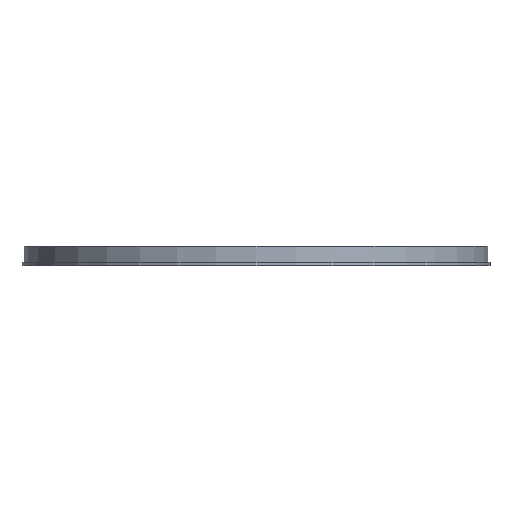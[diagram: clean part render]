
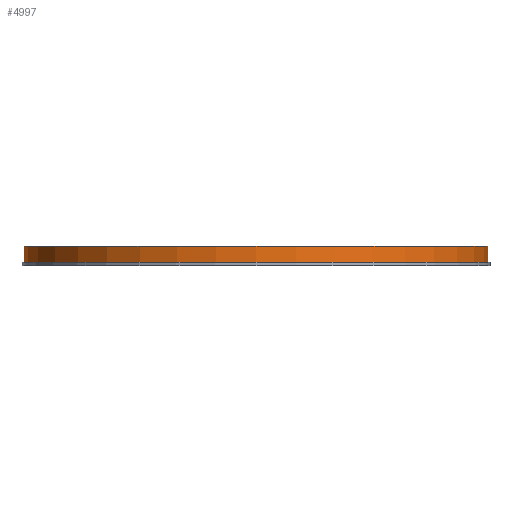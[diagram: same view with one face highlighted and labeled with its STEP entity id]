
A CAD part, front view. The second image highlights one B-rep face of the part: STEP entity #4997.
In plain terms, the highlighted cylindrical face has radius 57.5 mm (diameter 115 mm), a full revolution.
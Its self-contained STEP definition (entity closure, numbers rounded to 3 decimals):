
#66 = PLANE('',#67);
#67 = AXIS2_PLACEMENT_3D('',#68,#69,#70);
#68 = CARTESIAN_POINT('',(0.,0.,79.8));
#69 = DIRECTION('',(0.,0.,1.));
#70 = DIRECTION('',(1.,0.,-0.));
#1899 = EDGE_CURVE('',#1900,#1900,#1902,.T.);
#1900 = VERTEX_POINT('',#1901);
#1901 = CARTESIAN_POINT('',(57.5,0.,79.8));
#1902 = SURFACE_CURVE('',#1903,(#1908,#1919),.PCURVE_S1.);
#1903 = CIRCLE('',#1904,57.5);
#1904 = AXIS2_PLACEMENT_3D('',#1905,#1906,#1907);
#1905 = CARTESIAN_POINT('',(0.,0.,79.8));
#1906 = DIRECTION('',(0.,0.,-1.));
#1907 = DIRECTION('',(1.,0.,0.));
#1908 = PCURVE('',#66,#1909);
#1909 = DEFINITIONAL_REPRESENTATION('',(#1910),#1918);
#1910 = ( BOUNDED_CURVE() B_SPLINE_CURVE(2,(#1911,#1912,#1913,#1914,
#1915,#1916,#1917),.UNSPECIFIED.,.T.,.F.) B_SPLINE_CURVE_WITH_KNOTS((1,2
    ,2,2,2,1),(-2.094,0.,2.094,4.189,
6.283,8.378),.UNSPECIFIED.) CURVE() 
GEOMETRIC_REPRESENTATION_ITEM() RATIONAL_B_SPLINE_CURVE((1.,0.5,1.,0.5,
1.,0.5,1.)) REPRESENTATION_ITEM('') );
#1911 = CARTESIAN_POINT('',(57.5,0.));
#1912 = CARTESIAN_POINT('',(57.5,-99.593));
#1913 = CARTESIAN_POINT('',(-28.75,-49.796));
#1914 = CARTESIAN_POINT('',(-115.,0.));
#1915 = CARTESIAN_POINT('',(-28.75,49.796));
#1916 = CARTESIAN_POINT('',(57.5,99.593));
#1917 = CARTESIAN_POINT('',(57.5,0.));
#1918 = ( GEOMETRIC_REPRESENTATION_CONTEXT(2) 
PARAMETRIC_REPRESENTATION_CONTEXT() REPRESENTATION_CONTEXT('2D SPACE',''
  ) );
#1919 = PCURVE('',#1920,#1925);
#1920 = CYLINDRICAL_SURFACE('',#1921,57.5);
#1921 = AXIS2_PLACEMENT_3D('',#1922,#1923,#1924);
#1922 = CARTESIAN_POINT('',(0.,0.,79.4));
#1923 = DIRECTION('',(-0.,-0.,-1.));
#1924 = DIRECTION('',(1.,0.,0.));
#1925 = DEFINITIONAL_REPRESENTATION('',(#1926),#1930);
#1926 = LINE('',#1927,#1928);
#1927 = CARTESIAN_POINT('',(-6.283,-0.4));
#1928 = VECTOR('',#1929,1.);
#1929 = DIRECTION('',(1.,-0.));
#1930 = ( GEOMETRIC_REPRESENTATION_CONTEXT(2) 
PARAMETRIC_REPRESENTATION_CONTEXT() REPRESENTATION_CONTEXT('2D SPACE',''
  ) );
#4997 = ADVANCED_FACE('',(#4998),#1920,.T.);
#4998 = FACE_BOUND('',#4999,.F.);
#4999 = EDGE_LOOP('',(#5000,#5001,#5024,#5051));
#5000 = ORIENTED_EDGE('',*,*,#1899,.T.);
#5001 = ORIENTED_EDGE('',*,*,#5002,.T.);
#5002 = EDGE_CURVE('',#1900,#5003,#5005,.T.);
#5003 = VERTEX_POINT('',#5004);
#5004 = CARTESIAN_POINT('',(57.5,0.,83.8));
#5005 = SEAM_CURVE('',#5006,(#5010,#5017),.PCURVE_S1.);
#5006 = LINE('',#5007,#5008);
#5007 = CARTESIAN_POINT('',(57.5,0.,79.4));
#5008 = VECTOR('',#5009,1.);
#5009 = DIRECTION('',(0.,0.,1.));
#5010 = PCURVE('',#1920,#5011);
#5011 = DEFINITIONAL_REPRESENTATION('',(#5012),#5016);
#5012 = LINE('',#5013,#5014);
#5013 = CARTESIAN_POINT('',(-6.283,0.));
#5014 = VECTOR('',#5015,1.);
#5015 = DIRECTION('',(-0.,-1.));
#5016 = ( GEOMETRIC_REPRESENTATION_CONTEXT(2) 
PARAMETRIC_REPRESENTATION_CONTEXT() REPRESENTATION_CONTEXT('2D SPACE',''
  ) );
#5017 = PCURVE('',#1920,#5018);
#5018 = DEFINITIONAL_REPRESENTATION('',(#5019),#5023);
#5019 = LINE('',#5020,#5021);
#5020 = CARTESIAN_POINT('',(-0.,0.));
#5021 = VECTOR('',#5022,1.);
#5022 = DIRECTION('',(-0.,-1.));
#5023 = ( GEOMETRIC_REPRESENTATION_CONTEXT(2) 
PARAMETRIC_REPRESENTATION_CONTEXT() REPRESENTATION_CONTEXT('2D SPACE',''
  ) );
#5024 = ORIENTED_EDGE('',*,*,#5025,.T.);
#5025 = EDGE_CURVE('',#5003,#5003,#5026,.T.);
#5026 = SURFACE_CURVE('',#5027,(#5032,#5039),.PCURVE_S1.);
#5027 = CIRCLE('',#5028,57.5);
#5028 = AXIS2_PLACEMENT_3D('',#5029,#5030,#5031);
#5029 = CARTESIAN_POINT('',(0.,0.,83.8));
#5030 = DIRECTION('',(0.,0.,1.));
#5031 = DIRECTION('',(1.,0.,0.));
#5032 = PCURVE('',#1920,#5033);
#5033 = DEFINITIONAL_REPRESENTATION('',(#5034),#5038);
#5034 = LINE('',#5035,#5036);
#5035 = CARTESIAN_POINT('',(-0.,-4.4));
#5036 = VECTOR('',#5037,1.);
#5037 = DIRECTION('',(-1.,0.));
#5038 = ( GEOMETRIC_REPRESENTATION_CONTEXT(2) 
PARAMETRIC_REPRESENTATION_CONTEXT() REPRESENTATION_CONTEXT('2D SPACE',''
  ) );
#5039 = PCURVE('',#5040,#5045);
#5040 = PLANE('',#5041);
#5041 = AXIS2_PLACEMENT_3D('',#5042,#5043,#5044);
#5042 = CARTESIAN_POINT('',(0.,0.,83.8)
  );
#5043 = DIRECTION('',(0.,0.,1.));
#5044 = DIRECTION('',(1.,0.,-0.));
#5045 = DEFINITIONAL_REPRESENTATION('',(#5046),#5050);
#5046 = CIRCLE('',#5047,57.5);
#5047 = AXIS2_PLACEMENT_2D('',#5048,#5049);
#5048 = CARTESIAN_POINT('',(0.,0.));
#5049 = DIRECTION('',(1.,0.));
#5050 = ( GEOMETRIC_REPRESENTATION_CONTEXT(2) 
PARAMETRIC_REPRESENTATION_CONTEXT() REPRESENTATION_CONTEXT('2D SPACE',''
  ) );
#5051 = ORIENTED_EDGE('',*,*,#5002,.F.);
